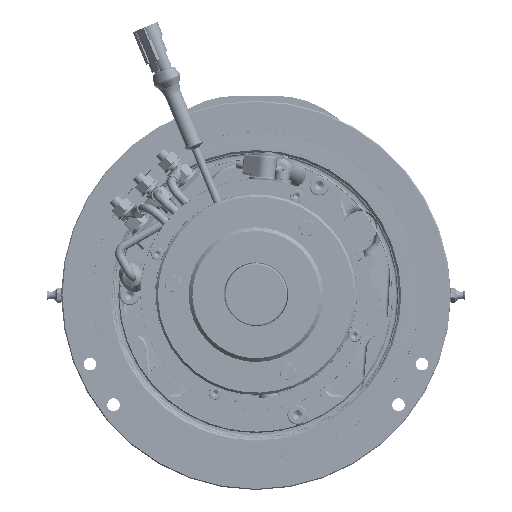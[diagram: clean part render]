
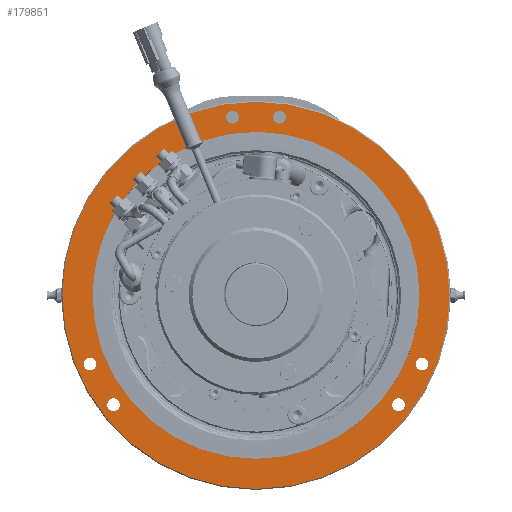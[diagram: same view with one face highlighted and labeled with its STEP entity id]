
A CAD part, top view. The second image highlights one B-rep face of the part: STEP entity #179851.
In plain terms, the highlighted planar face has unit normal (0, 0, 1).
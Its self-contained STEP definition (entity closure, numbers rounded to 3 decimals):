
#3796=FACE_BOUND('',#29466,.T.);
#3797=FACE_BOUND('',#29467,.T.);
#3798=FACE_BOUND('',#29468,.T.);
#3799=FACE_BOUND('',#29469,.T.);
#3800=FACE_BOUND('',#29470,.T.);
#3801=FACE_BOUND('',#29471,.T.);
#3802=FACE_BOUND('',#29472,.T.);
#8579=CIRCLE('',#193747,129.3);
#8581=CIRCLE('',#193750,4.25);
#8583=CIRCLE('',#193753,4.25);
#8585=CIRCLE('',#193756,4.25);
#8587=CIRCLE('',#193759,4.25);
#8589=CIRCLE('',#193762,4.25);
#8591=CIRCLE('',#193765,4.25);
#8593=CIRCLE('',#193768,109.25);
#19177=FACE_OUTER_BOUND('',#29465,.T.);
#29465=EDGE_LOOP('',(#139056));
#29466=EDGE_LOOP('',(#139057));
#29467=EDGE_LOOP('',(#139058));
#29468=EDGE_LOOP('',(#139059));
#29469=EDGE_LOOP('',(#139060));
#29470=EDGE_LOOP('',(#139061));
#29471=EDGE_LOOP('',(#139062));
#29472=EDGE_LOOP('',(#139063));
#75473=VERTEX_POINT('',#312222);
#75474=VERTEX_POINT('',#312227);
#75476=VERTEX_POINT('',#312233);
#75478=VERTEX_POINT('',#312239);
#75480=VERTEX_POINT('',#312245);
#75482=VERTEX_POINT('',#312251);
#75484=VERTEX_POINT('',#312257);
#75486=VERTEX_POINT('',#312263);
#97545=EDGE_CURVE('',#75473,#75473,#8579,.T.);
#97547=EDGE_CURVE('',#75474,#75474,#8581,.T.);
#97550=EDGE_CURVE('',#75476,#75476,#8583,.T.);
#97553=EDGE_CURVE('',#75478,#75478,#8585,.T.);
#97556=EDGE_CURVE('',#75480,#75480,#8587,.T.);
#97559=EDGE_CURVE('',#75482,#75482,#8589,.T.);
#97562=EDGE_CURVE('',#75484,#75484,#8591,.T.);
#97565=EDGE_CURVE('',#75486,#75486,#8593,.T.);
#139056=ORIENTED_EDGE('',*,*,#97545,.T.);
#139057=ORIENTED_EDGE('',*,*,#97547,.F.);
#139058=ORIENTED_EDGE('',*,*,#97550,.F.);
#139059=ORIENTED_EDGE('',*,*,#97553,.F.);
#139060=ORIENTED_EDGE('',*,*,#97556,.T.);
#139061=ORIENTED_EDGE('',*,*,#97559,.T.);
#139062=ORIENTED_EDGE('',*,*,#97562,.T.);
#139063=ORIENTED_EDGE('',*,*,#97565,.T.);
#162566=PLANE('',#193773);
#179851=ADVANCED_FACE('',(#19177,#3796,#3797,#3798,#3799,#3800,#3801,#3802),
#162566,.T.);
#193747=AXIS2_PLACEMENT_3D('',#312224,#230289,#230290);
#193750=AXIS2_PLACEMENT_3D('',#312228,#230295,#230296);
#193753=AXIS2_PLACEMENT_3D('',#312234,#230302,#230303);
#193756=AXIS2_PLACEMENT_3D('',#312240,#230309,#230310);
#193759=AXIS2_PLACEMENT_3D('',#312246,#230316,#230317);
#193762=AXIS2_PLACEMENT_3D('',#312252,#230323,#230324);
#193765=AXIS2_PLACEMENT_3D('',#312258,#230330,#230331);
#193768=AXIS2_PLACEMENT_3D('',#312264,#230337,#230338);
#193773=AXIS2_PLACEMENT_3D('',#312274,#230351,#230352);
#230289=DIRECTION('center_axis',(0.,0.,1.));
#230290=DIRECTION('ref_axis',(1.,0.,0.));
#230295=DIRECTION('center_axis',(0.,0.,1.));
#230296=DIRECTION('ref_axis',(-0.259,-0.966,0.));
#230302=DIRECTION('center_axis',(0.,0.,1.));
#230303=DIRECTION('ref_axis',(-0.5,-0.866,0.));
#230309=DIRECTION('center_axis',(0.,0.,1.));
#230310=DIRECTION('ref_axis',(1.,0.,0.));
#230316=DIRECTION('center_axis',(0.,0.,-1.));
#230317=DIRECTION('ref_axis',(0.259,-0.966,0.));
#230323=DIRECTION('center_axis',(0.,0.,-1.));
#230324=DIRECTION('ref_axis',(0.5,-0.866,0.));
#230330=DIRECTION('center_axis',(0.,0.,-1.));
#230331=DIRECTION('ref_axis',(-1.,0.,0.));
#230337=DIRECTION('center_axis',(0.,0.,-1.));
#230338=DIRECTION('ref_axis',(1.,0.,0.));
#230351=DIRECTION('center_axis',(0.,0.,1.));
#230352=DIRECTION('ref_axis',(1.,0.,0.));
#312222=CARTESIAN_POINT('',(129.3,0.,25.));
#312224=CARTESIAN_POINT('Origin',(0.,0.,
25.));
#312227=CARTESIAN_POINT('',(111.966,-41.817,25.));
#312228=CARTESIAN_POINT('Origin',(110.866,-45.922,25.));
#312233=CARTESIAN_POINT('',(97.327,-69.371,25.));
#312234=CARTESIAN_POINT('Origin',(95.202,-73.051,25.));
#312239=CARTESIAN_POINT('',(11.413,118.973,25.));
#312240=CARTESIAN_POINT('Origin',(15.663,118.973,25.));
#312245=CARTESIAN_POINT('',(-111.966,-41.817,25.));
#312246=CARTESIAN_POINT('Origin',(-110.866,-45.922,25.));
#312251=CARTESIAN_POINT('',(-97.327,-69.371,25.));
#312252=CARTESIAN_POINT('Origin',(-95.202,-73.051,25.));
#312257=CARTESIAN_POINT('',(-11.413,118.973,25.));
#312258=CARTESIAN_POINT('Origin',(-15.663,118.973,25.));
#312263=CARTESIAN_POINT('',(109.25,0.,25.));
#312264=CARTESIAN_POINT('Origin',(0.,0.,
25.));
#312274=CARTESIAN_POINT('Origin',(0.,0.,
25.));
